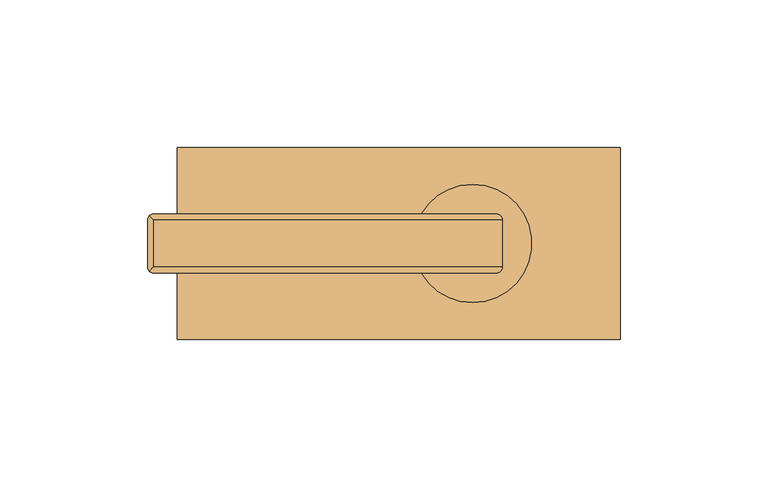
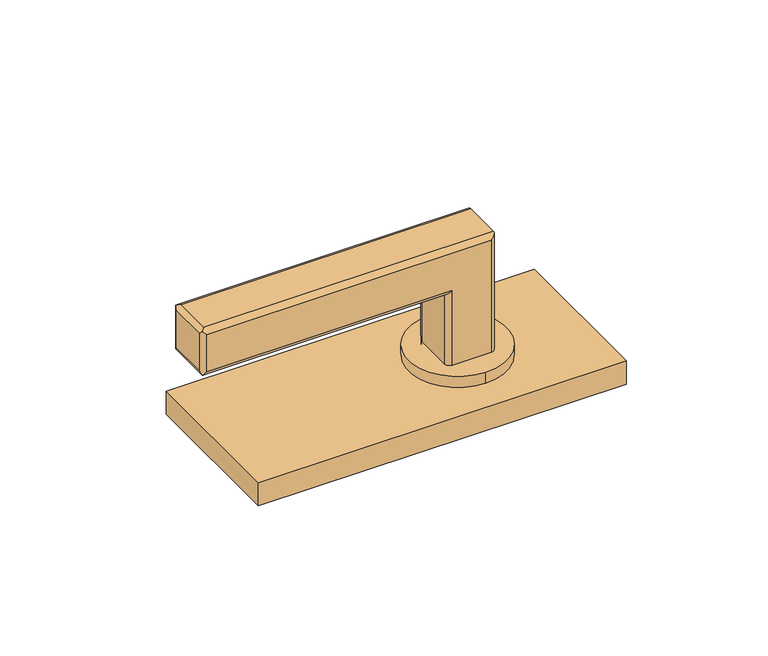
"""IFC4 building model written with IfcOpenShell, lengths in millimetres: door geometry, VERTI - kování M&T : KVADRA."""

from ifc_helpers import new_model, si_unit, point, frame, origin, origin_with_axes, origin_2d, place, context, project, spatial, polyline, circle_curve, ellipse_curve, trimmed, segment, composite_curve, outline, extrude, source, transform, mapped, element, save
from ifc_brep_helpers import plane_surface, cylinder_surface, advanced_brep


def door_a4a6ccb6(model_context):
    return source(origin(), model_context, "Body", "SolidModel", [
        extrude(outline(polyline([(-100.0, 32.5), (50.0, 32.5), (50.0, -32.5), (-100.0, -32.5), (-100.0, 32.5)])), origin_with_axes(), (0.0, 0.0, 1.0), 10.0),
        advanced_brep(
        [(-8.0, -10.0, 0.0), (-10.0, -8.0, 0.0), (-10.0, 8.0, 0.0), (-8.0, 10.0, 0.0), (8.0, 10.0, 0.0), (10.0, 8.0, 0.0), (10.0, -8.0, 0.0), (8.0, -10.0, 0.0), (8.0, -10.0, 63.0), (-108.0, -10.0, 63.0), (-108.0, -10.0, 47.0), (-8.0, -10.0, 47.0), (10.0, -8.0, 65.0), (10.0, 8.0, 65.0), (8.0, 10.0, 63.0), (-8.0, 10.0, 47.0), (-108.0, 10.0, 47.0), (-108.0, 10.0, 63.0), (-10.0, 8.0, 45.0), (-10.0, -8.0, 45.0), (-110.0, -8.0, 47.0), (-110.0, -8.0, 63.0), (-110.0, 8.0, 63.0), (-110.0, 8.0, 47.0), (-108.0, -8.0, 65.0), (-109.4142136, -9.4142136, 64.4142136), (-108.0, 8.0, 65.0), (-109.4142136, 9.4142136, 64.4142136), (-108.0, 8.0, 45.0), (-109.4142136, 9.4142136, 45.5857864), (-108.0, -8.0, 45.0), (-109.4142136, -9.4142136, 45.5857864)],
        [
            (0, 1, circle_curve(frame((-8.0, -8.0, 0.0), z_axis=(0.0, 0.0, -1.0), x_axis=(1.0, 0.0, 0.0)), 2.0)),
            (1, 2),
            (2, 3, circle_curve(frame((-8.0, 8.0, 0.0), z_axis=(0.0, 0.0, -1.0), x_axis=(1.0, 0.0, 0.0)), 2.0)),
            (3, 4),
            (4, 5, circle_curve(frame((8.0, 8.0, 0.0), z_axis=(0.0, 0.0, -1.0), x_axis=(1.0, 0.0, 0.0)), 2.0)),
            (5, 6),
            (6, 7, circle_curve(frame((8.0, -8.0, 0.0), z_axis=(0.0, 0.0, -1.0), x_axis=(1.0, 0.0, 0.0)), 2.0)),
            (7, 0),
            (7, 8),
            (8, 9),
            (9, 10),
            (10, 11),
            (11, 0),
            (6, 12),
            (12, 8, ellipse_curve(frame((8.0, -8.0, 63.0), z_axis=(0.7071067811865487, 0.0, -0.7071067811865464), x_axis=(-0.7071067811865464, 0.0, -0.7071067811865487)), 2.8284271, 2.0)),
            (5, 13),
            (13, 12),
            (4, 14),
            (14, 13, ellipse_curve(frame((8.0, 8.0, 63.0), z_axis=(0.7071067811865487, 0.0, -0.7071067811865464), x_axis=(-0.7071067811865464, 0.0, -0.7071067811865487)), 2.8284271, 2.0)),
            (3, 15),
            (15, 16),
            (16, 17),
            (17, 14),
            (2, 18),
            (18, 15, ellipse_curve(frame((-8.0, 8.0, 47.0), z_axis=(0.7071067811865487, 0.0, -0.7071067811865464), x_axis=(-0.7071067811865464, 0.0, -0.7071067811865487)), 2.8284271, 2.0)),
            (1, 19),
            (19, 18),
            (11, 19, ellipse_curve(frame((-8.0, -8.0, 47.0), z_axis=(0.7071067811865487, 0.0, -0.7071067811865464), x_axis=(-0.7071067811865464, 0.0, -0.7071067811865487)), 2.8284271, 2.0)),
            (20, 21),
            (21, 22),
            (22, 23),
            (23, 20),
            (12, 24),
            (24, 25, ellipse_curve(frame((-108.0, -8.0, 63.0), z_axis=(0.7071067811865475, -0.7071067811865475, 0.0), x_axis=(0.7071067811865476, 0.7071067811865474, 0.0)), 2.8284271, 2.0)),
            (25, 9, ellipse_curve(frame((-108.0, -8.0, 63.0), z_axis=(0.7071067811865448, 0.0, 0.7071067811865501), x_axis=(0.7071067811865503, 0.0, -0.7071067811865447)), 2.8284271, 2.0)),
            (13, 26),
            (26, 24),
            (17, 27, ellipse_curve(frame((-108.0, 8.0, 63.0), z_axis=(0.7071067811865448, 0.0, 0.7071067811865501), x_axis=(0.7071067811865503, 0.0, -0.7071067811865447)), 2.8284271, 2.0)),
            (27, 26, ellipse_curve(frame((-108.0, 8.0, 63.0), z_axis=(0.7071067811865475, 0.7071067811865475, 0.0), x_axis=(0.7071067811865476, -0.7071067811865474, 0.0)), 2.8284271, 2.0)),
            (18, 28),
            (28, 29, ellipse_curve(frame((-108.0, 8.0, 47.0), z_axis=(0.7071067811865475, 0.7071067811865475, 0.0), x_axis=(0.7071067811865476, -0.7071067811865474, 0.0)), 2.8284271, 2.0)),
            (29, 16, ellipse_curve(frame((-108.0, 8.0, 47.0), z_axis=(0.7071067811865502, 0.0, -0.7071067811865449), x_axis=(0.7071067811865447, 0.0, 0.7071067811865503)), 2.8284271, 2.0)),
            (19, 30),
            (30, 28),
            (10, 31, ellipse_curve(frame((-108.0, -8.0, 47.0), z_axis=(0.7071067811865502, 0.0, -0.7071067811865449), x_axis=(0.7071067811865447, 0.0, 0.7071067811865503)), 2.8284271, 2.0)),
            (31, 30, ellipse_curve(frame((-108.0, -8.0, 47.0), z_axis=(0.7071067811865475, -0.7071067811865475, 0.0), x_axis=(0.7071067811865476, 0.7071067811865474, 0.0)), 2.8284271, 2.0)),
            (31, 20, ellipse_curve(frame((-108.0, -8.0, 47.0), z_axis=(0.0, 0.7071067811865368, -0.7071067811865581), x_axis=(0.0, 0.7071067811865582, 0.7071067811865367)), 2.8284271, 2.0)),
            (23, 29, ellipse_curve(frame((-108.0, 8.0, 47.0), z_axis=(0.0, -0.7071067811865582, -0.7071067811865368), x_axis=(0.0, 0.7071067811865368, -0.7071067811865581)), 2.8284271, 2.0)),
            (22, 27, ellipse_curve(frame((-108.0, 8.0, 63.0), z_axis=(0.0, 0.7071067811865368, -0.7071067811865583), x_axis=(0.0, 0.7071067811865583, 0.7071067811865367)), 2.8284271, 2.0)),
            (21, 25, ellipse_curve(frame((-108.0, -8.0, 63.0), z_axis=(0.0, 0.7071067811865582, 0.7071067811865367), x_axis=(0.0, -0.7071067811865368, 0.7071067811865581)), 2.8284271, 2.0)),
        ],
        [
            plane_surface(frame((0.0, 0.0, 0.0), z_axis=(0.0, 0.0, -1.0), x_axis=(0.0, -1.0, 0.0))),
            plane_surface(frame((-8.0, -10.0, 0.0), z_axis=(0.0, -1.0, 0.0), x_axis=(0.0, 0.0, 1.0))),
            cylinder_surface(frame((8.0, -8.0, 0.0), z_axis=(0.0, 0.0, -1.0), x_axis=(1.0, 0.0, 0.0)), 2.0),
            plane_surface(frame((10.0, -8.0, 0.0), z_axis=(1.0, 0.0, 0.0), x_axis=(0.0, 0.0, 1.0))),
            cylinder_surface(frame((8.0, 8.0, 0.0), z_axis=(0.0, 0.0, -1.0), x_axis=(1.0, 0.0, 0.0)), 2.0),
            plane_surface(frame((8.0, 10.0, 0.0), z_axis=(0.0, 1.0, 0.0), x_axis=(0.0, 0.0, 1.0))),
            cylinder_surface(frame((-8.0, 8.0, 0.0), z_axis=(0.0, 0.0, -1.0), x_axis=(1.0, 0.0, 0.0)), 2.0),
            plane_surface(frame((-10.0, 8.0, 0.0), z_axis=(-1.0, 0.0, 0.0), x_axis=(0.0, 0.0, 1.0))),
            cylinder_surface(frame((-8.0, -8.0, 0.0), z_axis=(0.0, 0.0, -1.0), x_axis=(1.0, 0.0, 0.0)), 2.0),
            plane_surface(frame((-110.0, 0.0, 55.0), z_axis=(-1.0, 0.0, 0.0), x_axis=(0.0, -1.0, 0.0))),
            cylinder_surface(frame((0.0, -8.0, 63.0), z_axis=(1.0, 0.0, 0.0), x_axis=(0.0, 0.0, 1.0)), 2.0),
            plane_surface(frame((10.0, -8.0, 65.0), z_axis=(0.0, 0.0, 1.0), x_axis=(-1.0, 0.0, 0.0))),
            cylinder_surface(frame((0.0, 8.0, 63.0), z_axis=(1.0, 0.0, 0.0), x_axis=(0.0, 0.0, 1.0)), 2.0),
            cylinder_surface(frame((0.0, 8.0, 47.0), z_axis=(1.0, 0.0, 0.0), x_axis=(0.0, 0.0, 1.0)), 2.0),
            plane_surface(frame((-10.0, 8.0, 45.0), z_axis=(0.0, 0.0, -1.0), x_axis=(-1.0, 0.0, 0.0))),
            cylinder_surface(frame((0.0, -8.0, 47.0), z_axis=(1.0, 0.0, 0.0), x_axis=(0.0, 0.0, 1.0)), 2.0),
            cylinder_surface(frame((-108.0, -10.0, 47.0), z_axis=(0.0, 1.0, 0.0), x_axis=(1.0, 0.0, 0.0)), 2.0),
            cylinder_surface(frame((-108.0, 8.0, 45.0), z_axis=(0.0, 0.0, 1.0), x_axis=(1.0, 0.0, 0.0)), 2.0),
            cylinder_surface(frame((-108.0, 10.0, 63.0), z_axis=(0.0, -1.0, 0.0), x_axis=(1.0, 0.0, 0.0)), 2.0),
            cylinder_surface(frame((-108.0, -8.0, 65.0), z_axis=(0.0, 0.0, -1.0), x_axis=(1.0, 0.0, 0.0)), 2.0),
        ],
        [
            (0, [[1, 2, 3, 4, 5, 6, 7, 8]]),
            (1, [[9, 10, 11, 12, 13, -8]]),
            (2, [[14, 15, -9, -7]]),
            (3, [[16, 17, -14, -6]]),
            (4, [[18, 19, -16, -5]]),
            (5, [[20, 21, 22, 23, -18, -4]]),
            (6, [[24, 25, -20, -3]]),
            (7, [[26, 27, -24, -2]]),
            (8, [[-13, 28, -26, -1]]),
            (9, [[29, 30, 31, 32]]),
            (10, [[33, 34, 35, -10, -15]]),
            (11, [[36, 37, -33, -17]]),
            (12, [[-23, 38, 39, -36, -19]]),
            (13, [[40, 41, 42, -21, -25]]),
            (14, [[43, 44, -40, -27]]),
            (15, [[-12, 45, 46, -43, -28]]),
            (16, [[-41, -44, -46, 47, -32, 48]]),
            (17, [[-31, 49, -38, -22, -42, -48]]),
            (18, [[-30, 50, -34, -37, -39, -49]]),
            (19, [[-29, -47, -45, -11, -35, -50]]),
        ],
    ),
        extrude(outline(composite_curve([segment(trimmed(circle_curve(origin_2d(), 20.0), [point((0.0, -20.0))], [point((0.0, 20.0))], False, "CARTESIAN"), True, "CONTINUOUS"), segment(trimmed(circle_curve(origin_2d(), 20.0), [point((0.0, 20.0))], [point((0.0, -20.0))], False, "CARTESIAN"), True, "CONTINUOUS")], self_intersect=False)), frame((0.0, 0.0, 10.0), z_axis=(0.0, 0.0, 1.0), x_axis=(1.0, 0.0, 0.0)), (0.0, 0.0, 1.0), 5.0),
    ])


if __name__ == "__main__":
    model = new_model("IFC4")
    model_context = context("Model", 3, world=origin())
    ifc_project = project(units=[si_unit("LENGTHUNIT", "METRE", prefix="MILLI")], contexts=[model_context])
    site = spatial("IfcSite", under=ifc_project)
    building = spatial("IfcBuilding", under=site)
    placement = place(None, origin())
    door_shape = door_a4a6ccb6(model_context)
    element("IfcDoor", 1, ObjectType="VERTI - kování M&T : KVADRA", at=placement, inside=building, context=model_context, shape_type="MappedRepresentation", body=[
        mapped(door_shape, transform((0.0, 0.0, 0.0), x_axis=(1.0, 0.0, 0.0), y_axis=(0.0, 1.0, 0.0), z_axis=(0.0, 0.0, 1.0))),
    ])
    save(model, "model.ifc")
